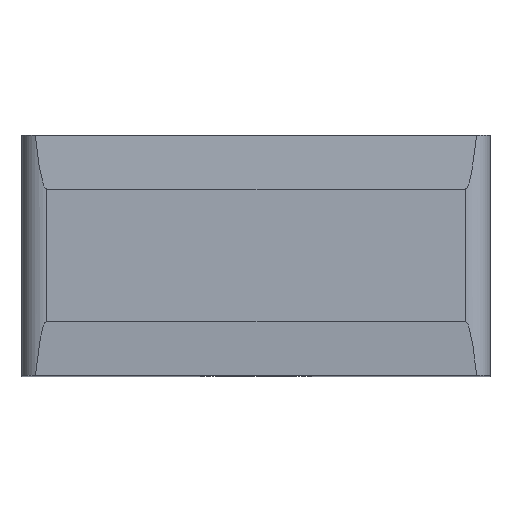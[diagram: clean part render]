
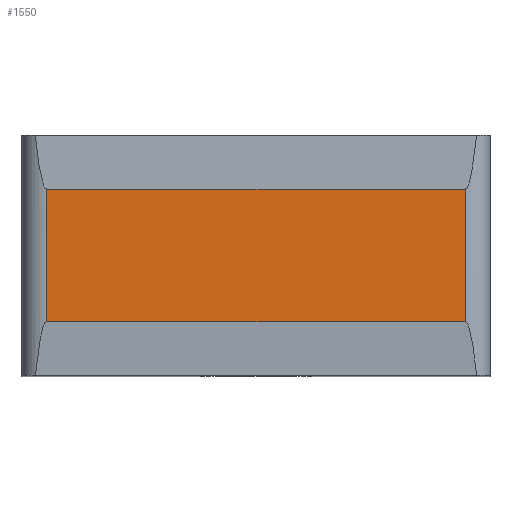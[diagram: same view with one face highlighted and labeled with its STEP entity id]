
A CAD part, top view. The second image highlights one B-rep face of the part: STEP entity #1550.
In plain terms, the highlighted planar face has unit normal (0, 0, 1).
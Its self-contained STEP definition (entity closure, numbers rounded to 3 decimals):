
#6 = B_SPLINE_CURVE_WITH_KNOTS ( 'NONE', 3,
 ( #1365, #505, #1093, #358 ),
 .UNSPECIFIED., .F., .F.,
 ( 4, 4 ),
 ( 0., 1. ),
 .UNSPECIFIED. ) ;
#119 = CARTESIAN_POINT ( 'NONE',  ( 28.3, 0.8, 17.497 ) ) ;
#147 = CARTESIAN_POINT ( 'NONE',  ( 28.3, -0.8, 17.497 ) ) ;
#212 = B_SPLINE_CURVE_WITH_KNOTS ( 'NONE', 3,
 ( #722, #1888, #1154, #119 ),
 .UNSPECIFIED., .F., .F.,
 ( 4, 4 ),
 ( 0., 1. ),
 .UNSPECIFIED. ) ;
#299 = EDGE_LOOP ( 'NONE', ( #1095, #1791, #1332, #795 ) ) ;
#301 = CARTESIAN_POINT ( 'NONE',  ( 31.667, -0.8, 17.5 ) ) ;
#352 = EDGE_CURVE ( 'NONE', #1246, #994, #1772, .T. ) ;
#358 = CARTESIAN_POINT ( 'NONE',  ( 33.35, 0.8, 17.5 ) ) ;
#372 = CARTESIAN_POINT ( 'NONE',  ( 30.825, 0., 17.5 ) ) ;
#414 = CARTESIAN_POINT ( 'NONE',  ( 33.35, -0.8, 17.5 ) ) ;
#505 = CARTESIAN_POINT ( 'NONE',  ( 29.983, 0.8, 17.5 ) ) ;
#700 = CARTESIAN_POINT ( 'NONE',  ( 28.3, 0.8, 17.497 ) ) ;
#722 = CARTESIAN_POINT ( 'NONE',  ( 28.3, -0.8, 17.497 ) ) ;
#792 = EDGE_CURVE ( 'NONE', #994, #1058, #1061, .T. ) ;
#795 = ORIENTED_EDGE ( 'NONE', *, *, #352, .T. ) ;
#827 = VECTOR ( 'NONE', #1495, 1000. ) ;
#842 = FACE_OUTER_BOUND ( 'NONE', #299, .T. ) ;
#994 = VERTEX_POINT ( 'NONE', #414 ) ;
#1018 = CARTESIAN_POINT ( 'NONE',  ( 29.983, -0.8, 17.5 ) ) ;
#1049 = VERTEX_POINT ( 'NONE', #700 ) ;
#1058 = VERTEX_POINT ( 'NONE', #1891 ) ;
#1061 = LINE ( 'NONE', #1836, #827 ) ;
#1093 = CARTESIAN_POINT ( 'NONE',  ( 31.667, 0.8, 17.5 ) ) ;
#1095 = ORIENTED_EDGE ( 'NONE', *, *, #792, .T. ) ;
#1107 = EDGE_CURVE ( 'NONE', #1246, #1049, #212, .T. ) ;
#1154 = CARTESIAN_POINT ( 'NONE',  ( 28.3, 0.267, 17.497 ) ) ;
#1246 = VERTEX_POINT ( 'NONE', #147 ) ;
#1332 = ORIENTED_EDGE ( 'NONE', *, *, #1107, .F. ) ;
#1365 = CARTESIAN_POINT ( 'NONE',  ( 28.3, 0.8, 17.497 ) ) ;
#1475 = EDGE_CURVE ( 'NONE', #1049, #1058, #6, .T. ) ;
#1476 = CARTESIAN_POINT ( 'NONE',  ( 28.3, -0.8, 17.497 ) ) ;
#1495 = DIRECTION ( 'NONE',  ( 0., 1., 0. ) ) ;
#1550 = ADVANCED_FACE ( 'NONE', ( #842 ), #1723, .T. ) ;
#1567 = DIRECTION ( 'NONE',  ( 0., 0., 1. ) ) ;
#1616 = CARTESIAN_POINT ( 'NONE',  ( 33.35, -0.8, 17.5 ) ) ;
#1723 = PLANE ( 'NONE',  #1881 ) ;
#1772 = B_SPLINE_CURVE_WITH_KNOTS ( 'NONE', 3,
 ( #1476, #1018, #301, #1616 ),
 .UNSPECIFIED., .F., .F.,
 ( 4, 4 ),
 ( 0., 1. ),
 .UNSPECIFIED. ) ;
#1791 = ORIENTED_EDGE ( 'NONE', *, *, #1475, .F. ) ;
#1836 = CARTESIAN_POINT ( 'NONE',  ( 33.35, -0.8, 17.5 ) ) ;
#1841 = DIRECTION ( 'NONE',  ( 1., 0., 0. ) ) ;
#1881 = AXIS2_PLACEMENT_3D ( 'NONE', #372, #1567, #1841 ) ;
#1888 = CARTESIAN_POINT ( 'NONE',  ( 28.3, -0.267, 17.497 ) ) ;
#1891 = CARTESIAN_POINT ( 'NONE',  ( 33.35, 0.8, 17.5 ) ) ;
